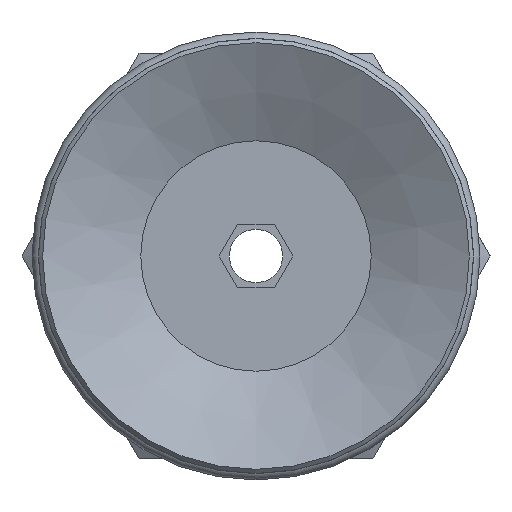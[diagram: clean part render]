
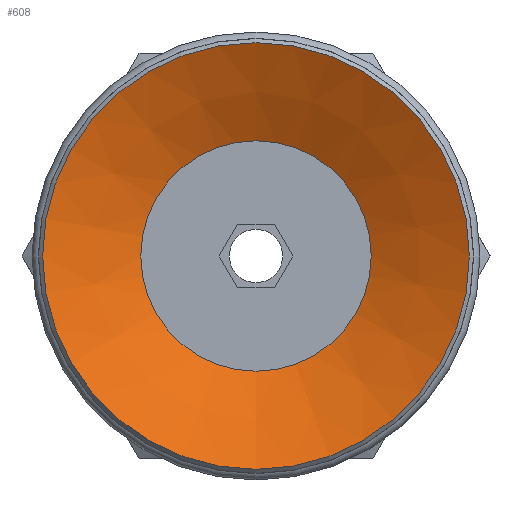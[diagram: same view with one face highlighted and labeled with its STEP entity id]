
A CAD part, front view. The second image highlights one B-rep face of the part: STEP entity #608.
In plain terms, the highlighted conical face has half-angle 63 degrees and reference radius 5.4 mm.
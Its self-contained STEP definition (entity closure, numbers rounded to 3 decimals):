
#608=ADVANCED_FACE('',(#868,#869),#870,.F.);
#868=FACE_BOUND('',#1175,.T.);
#869=FACE_OUTER_BOUND('',#1176,.T.);
#870=CONICAL_SURFACE('',#1177,5.4,1.1);
#1175=EDGE_LOOP('',(#1885));
#1176=EDGE_LOOP('',(#1886));
#1177=AXIS2_PLACEMENT_3D('',#1887,#1888,#1889);
#1885=ORIENTED_EDGE('',*,*,#2221,.F.);
#1886=ORIENTED_EDGE('',*,*,#2220,.T.);
#1887=CARTESIAN_POINT('',(0.0,5.518,0.0));
#1888=DIRECTION('',(-0.0,-1.0,0.));
#1889=DIRECTION('',(0.0,0.,-1.0));
#2220=EDGE_CURVE('',#2557,#2557,#2558,.T.);
#2221=EDGE_CURVE('',#2559,#2559,#2560,.T.);
#2557=VERTEX_POINT('',#3313);
#2558=CIRCLE('',#3314,10.0);
#2559=VERTEX_POINT('',#3315);
#2560=CIRCLE('',#3316,5.4);
#3313=CARTESIAN_POINT('',(0.0,3.175,-10.0));
#3314=AXIS2_PLACEMENT_3D('',#3677,#3678,#3679);
#3315=CARTESIAN_POINT('',(0.0,5.518,-5.4));
#3316=AXIS2_PLACEMENT_3D('',#3680,#3681,#3682);
#3677=CARTESIAN_POINT('',(0.0,3.175,0.0));
#3678=DIRECTION('',(0.0,-1.0,0.));
#3679=DIRECTION('',(0.0,0.,-1.0));
#3680=CARTESIAN_POINT('',(0.0,5.518,0.0));
#3681=DIRECTION('',(0.0,-1.0,0.));
#3682=DIRECTION('',(0.0,0.,-1.0));
